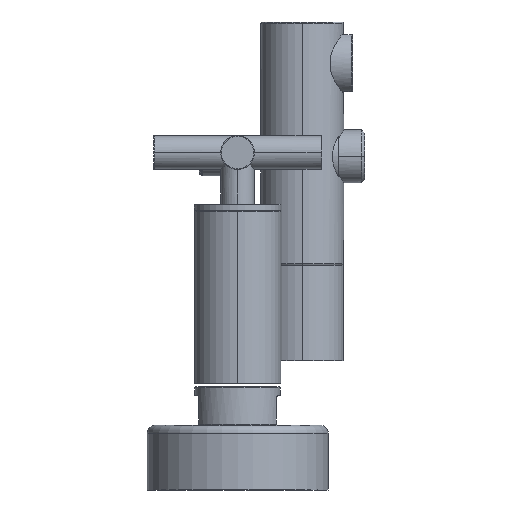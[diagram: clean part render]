
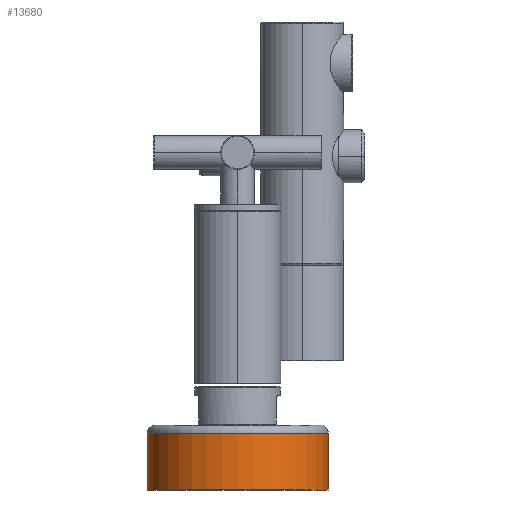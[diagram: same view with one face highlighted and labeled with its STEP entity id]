
A CAD part, left-side view. The second image highlights one B-rep face of the part: STEP entity #13680.
In plain terms, the highlighted cylindrical face has radius 35 mm (diameter 70 mm), a partial arc.
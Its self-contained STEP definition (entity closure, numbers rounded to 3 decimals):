
#12724=DIRECTION('',(0.,0.,-1.));
#12725=VECTOR('',#12724,22.);
#12726=CARTESIAN_POINT('',(-75.,35.,-50.5));
#12727=LINE('',#12726,#12725);
#12728=DIRECTION('',(0.,0.,-1.));
#12729=VECTOR('',#12728,22.);
#12730=CARTESIAN_POINT('',(-75.,-35.,-50.5));
#12731=LINE('',#12730,#12729);
#12737=CARTESIAN_POINT('',(-75.,0.,-50.5));
#12738=DIRECTION('',(0.,0.,1.));
#12739=DIRECTION('',(0.,1.,0.));
#12740=AXIS2_PLACEMENT_3D('',#12737,#12738,#12739);
#12747=CARTESIAN_POINT('',(-75.,0.,-72.5));
#12748=DIRECTION('',(0.,0.,1.));
#12749=DIRECTION('',(0.,1.,0.));
#12750=AXIS2_PLACEMENT_3D('',#12747,#12748,#12749);
#13103=CARTESIAN_POINT('',(-75.,35.,-50.5));
#13105=VERTEX_POINT('',#13103);
#13106=CARTESIAN_POINT('',(-75.,35.,-72.5));
#13107=VERTEX_POINT('',#13106);
#13123=CARTESIAN_POINT('',(-75.,-35.,-50.5));
#13125=VERTEX_POINT('',#13123);
#13126=CARTESIAN_POINT('',(-75.,-35.,-72.5));
#13127=VERTEX_POINT('',#13126);
#13668=CARTESIAN_POINT('',(-75.,0.,-73.75));
#13669=DIRECTION('',(0.,0.,1.));
#13670=DIRECTION('',(0.,-1.,0.));
#13671=AXIS2_PLACEMENT_3D('',#13668,#13669,#13670);
#13672=CYLINDRICAL_SURFACE('',#13671,35.);
#13673=ORIENTED_EDGE('',*,*,#13658,.F.);
#13674=ORIENTED_EDGE('',*,*,#13635,.T.);
#13675=ORIENTED_EDGE('',*,*,#13662,.T.);
#13677=ORIENTED_EDGE('',*,*,#13676,.F.);
#13678=EDGE_LOOP('',(#13673,#13674,#13675,#13677));
#13679=FACE_OUTER_BOUND('',#13678,.F.);
#13680=ADVANCED_FACE('',(#13679),#13672,.T.);
#12741=CIRCLE('',#12740,35.);
#12751=CIRCLE('',#12750,35.);
#13635=EDGE_CURVE('',#13105,#13125,#12741,.T.);
#13658=EDGE_CURVE('',#13105,#13107,#12727,.T.);
#13662=EDGE_CURVE('',#13125,#13127,#12731,.T.);
#13676=EDGE_CURVE('',#13107,#13127,#12751,.T.);
